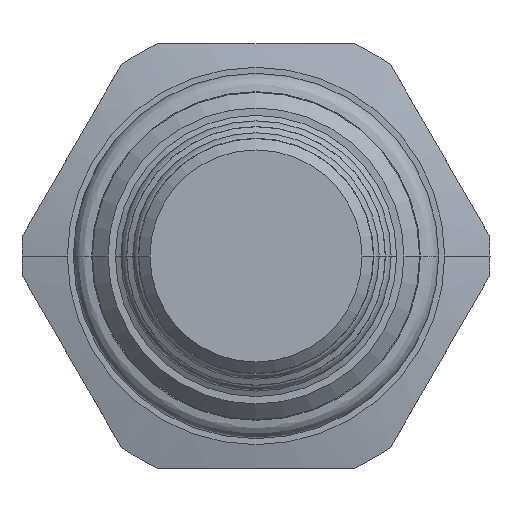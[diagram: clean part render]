
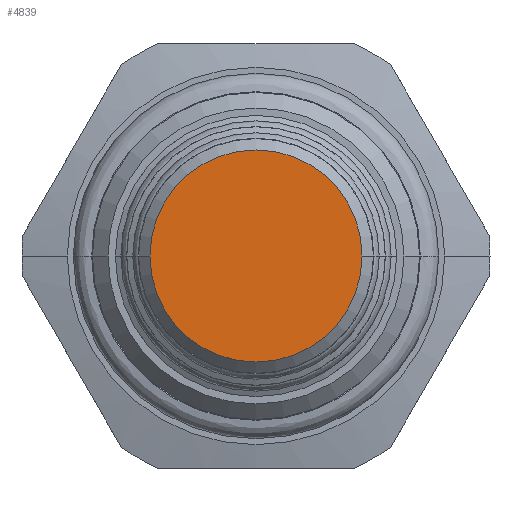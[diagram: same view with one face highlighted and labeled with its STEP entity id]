
A CAD part, front view. The second image highlights one B-rep face of the part: STEP entity #4839.
In plain terms, the highlighted planar face has unit normal (0, -1, 0).
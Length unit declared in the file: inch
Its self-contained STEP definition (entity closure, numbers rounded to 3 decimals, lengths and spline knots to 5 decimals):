
#1795=CARTESIAN_POINT('',(0.,-1.81232,0.));
#1796=DIRECTION('',(0.,1.,0.));
#1797=DIRECTION('',(-1.,0.,0.));
#1798=AXIS2_PLACEMENT_3D('',#1795,#1796,#1797);
#1805=CARTESIAN_POINT('',(0.,-1.81232,0.));
#1806=DIRECTION('',(0.,1.,0.));
#1807=DIRECTION('',(1.,0.,0.));
#1808=AXIS2_PLACEMENT_3D('',#1805,#1806,#1807);
#1900=CARTESIAN_POINT('',(-0.281,-1.81232,0.));
#1901=CARTESIAN_POINT('',(0.281,-1.81232,0.));
#1902=VERTEX_POINT('',#1900);
#1903=VERTEX_POINT('',#1901);
#4829=CARTESIAN_POINT('',(0.,-1.81232,0.));
#4830=DIRECTION('',(0.,-1.,0.));
#4831=DIRECTION('',(0.,0.,-1.));
#4832=AXIS2_PLACEMENT_3D('',#4829,#4830,#4831);
#4833=PLANE('',#4832);
#4835=ORIENTED_EDGE('',*,*,#4834,.T.);
#4836=ORIENTED_EDGE('',*,*,#4819,.T.);
#4837=EDGE_LOOP('',(#4835,#4836));
#4838=FACE_OUTER_BOUND('',#4837,.F.);
#4839=ADVANCED_FACE('',(#4838),#4833,.T.);
#1799=CIRCLE('',#1798,0.281);
#1809=CIRCLE('',#1808,0.281);
#4819=EDGE_CURVE('',#1902,#1903,#1799,.T.);
#4834=EDGE_CURVE('',#1903,#1902,#1809,.T.);
